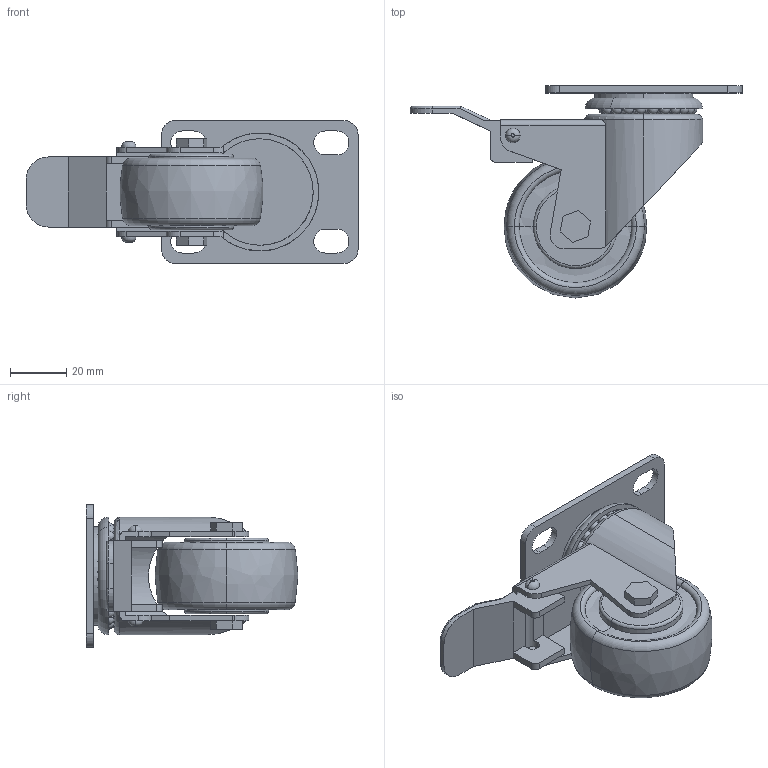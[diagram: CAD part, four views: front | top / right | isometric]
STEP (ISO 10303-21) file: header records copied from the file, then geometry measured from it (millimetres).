
FILE_DESCRIPTION (( 'STEP AP203' ), '1' );
FILE_NAME ('231-CE-CAT-2.STEP', '2015-07-09T09:34:10', ( '' ), ( '' ), 'SwSTEP 2.0', 'SolidWorks 2013', '' );
FILE_SCHEMA (( 'CONFIG_CONTROL_DESIGN' ));
Length unit declared in the file: millimetre
Products named in the file (1): 231-CE-CAT-2
Bounding box: 118.35 x 75.55 x 51 mm (x, y, z)
Surface area: 35219.7 mm2 (no closed solid volume)
Topology: 0 solids, 27 shells, 207 faces, 562 edges, 370 vertices
Faces by surface type: plane 70, cylinder 53, sphere 40, torus 38, bspline 6
Entity records: 5940 total; most frequent: CARTESIAN_POINT 1118, DIRECTION 1083, ORIENTED_EDGE 894, EDGE_CURVE 462, AXIS2_PLACEMENT_3D 439, VERTEX_POINT 310, CIRCLE 237, EDGE_LOOP 231
